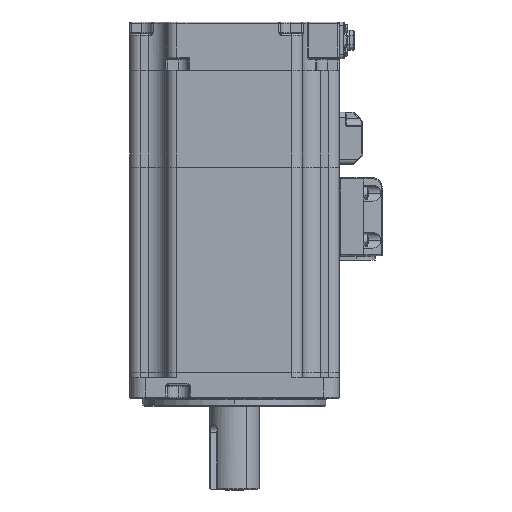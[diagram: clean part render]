
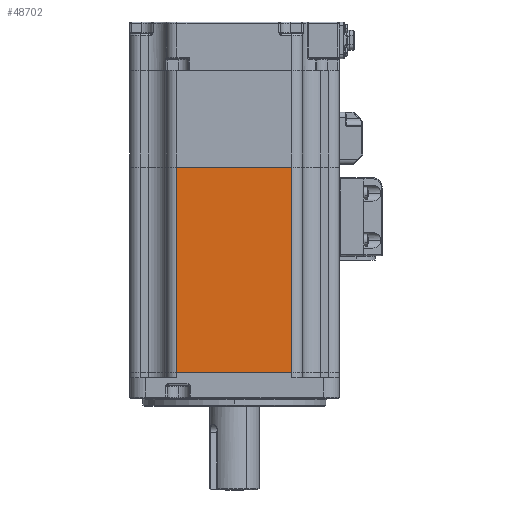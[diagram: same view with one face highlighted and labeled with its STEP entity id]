
A CAD part, front view. The second image highlights one B-rep face of the part: STEP entity #48702.
In plain terms, the highlighted planar face has unit normal (0, -1, 0).
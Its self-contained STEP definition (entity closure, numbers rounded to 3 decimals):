
#1349 = VECTOR ( 'NONE', #47211, 1000. ) ;
#1692 = CARTESIAN_POINT ( 'NONE',  ( 22., -40., 78.5 ) ) ;
#12344 = CARTESIAN_POINT ( 'NONE',  ( -22., -40., 78.5 ) ) ;
#14878 = CARTESIAN_POINT ( 'NONE',  ( -22., -40., 78.5 ) ) ;
#16876 = EDGE_LOOP ( 'NONE', ( #26420, #133168, #26338, #39695 ) ) ;
#17205 = VERTEX_POINT ( 'NONE', #109178 ) ;
#24975 = VECTOR ( 'NONE', #108736, 1000. ) ;
#26338 = ORIENTED_EDGE ( 'NONE', *, *, #158114, .T. ) ;
#26420 = ORIENTED_EDGE ( 'NONE', *, *, #84429, .F. ) ;
#38160 = DIRECTION ( 'NONE',  ( 0., 1., 0. ) ) ;
#39695 = ORIENTED_EDGE ( 'NONE', *, *, #83919, .F. ) ;
#46340 = VECTOR ( 'NONE', #153844, 1000. ) ;
#47211 = DIRECTION ( 'NONE',  ( 1., 0., 0. ) ) ;
#48702 = ADVANCED_FACE ( 'NONE', ( #64039 ), #104404, .F. ) ;
#55215 = CARTESIAN_POINT ( 'NONE',  ( 22., -40., 78.5 ) ) ;
#58242 = VECTOR ( 'NONE', #127072, 1000. ) ;
#60704 = VERTEX_POINT ( 'NONE', #77647 ) ;
#64039 = FACE_OUTER_BOUND ( 'NONE', #16876, .T. ) ;
#66620 = LINE ( 'NONE', #100126, #58242 ) ;
#72364 = CARTESIAN_POINT ( 'NONE',  ( -33., -40., 0. ) ) ;
#72488 = VERTEX_POINT ( 'NONE', #125240 ) ;
#75336 = LINE ( 'NONE', #14878, #24975 ) ;
#77647 = CARTESIAN_POINT ( 'NONE',  ( -22., -40., 78.5 ) ) ;
#77709 = LINE ( 'NONE', #55215, #46340 ) ;
#83919 = EDGE_CURVE ( 'NONE', #173936, #17205, #77709, .T. ) ;
#84429 = EDGE_CURVE ( 'NONE', #60704, #173936, #66620, .T. ) ;
#99463 = EDGE_CURVE ( 'NONE', #72488, #60704, #75336, .T. ) ;
#100126 = CARTESIAN_POINT ( 'NONE',  ( -33., -40., 78.5 ) ) ;
#104404 = PLANE ( 'NONE',  #163041 ) ;
#108736 = DIRECTION ( 'NONE',  ( 0., 0., 1. ) ) ;
#109178 = CARTESIAN_POINT ( 'NONE',  ( 22., -40., 0. ) ) ;
#125240 = CARTESIAN_POINT ( 'NONE',  ( -22., -40., 0. ) ) ;
#127072 = DIRECTION ( 'NONE',  ( 1., 0., 0. ) ) ;
#133168 = ORIENTED_EDGE ( 'NONE', *, *, #99463, .F. ) ;
#153844 = DIRECTION ( 'NONE',  ( 0., 0., -1. ) ) ;
#154474 = LINE ( 'NONE', #72364, #1349 ) ;
#158114 = EDGE_CURVE ( 'NONE', #72488, #17205, #154474, .T. ) ;
#163041 = AXIS2_PLACEMENT_3D ( 'NONE', #12344, #38160, #173738 ) ;
#173738 = DIRECTION ( 'NONE',  ( 0., 0., 1. ) ) ;
#173936 = VERTEX_POINT ( 'NONE', #1692 ) ;
